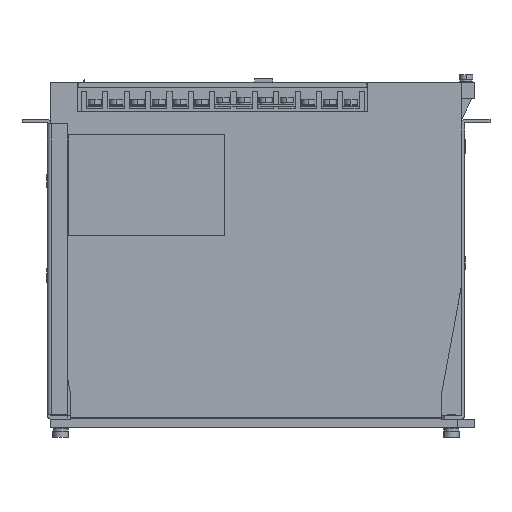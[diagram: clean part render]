
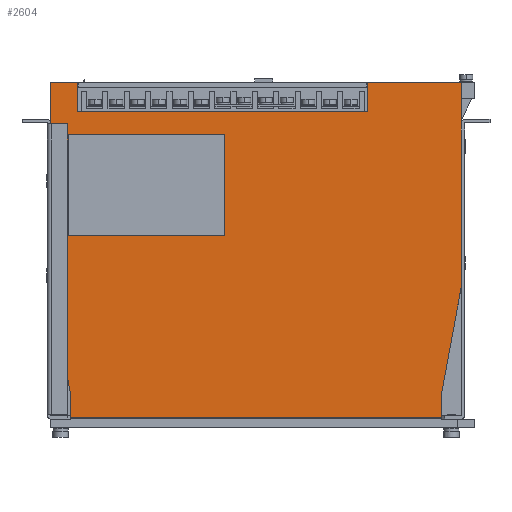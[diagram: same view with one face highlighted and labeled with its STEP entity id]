
A CAD part, left-side view. The second image highlights one B-rep face of the part: STEP entity #2604.
In plain terms, the highlighted planar face has unit normal (-1, 0, 0).
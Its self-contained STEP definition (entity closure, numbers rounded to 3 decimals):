
#2305 = ORIENTED_EDGE ( 'NONE', *, *, #9690, .F. ) ;
#2306 = EDGE_LOOP ( 'NONE', ( #2307, #2311, #2315, #2318 ) ) ;
#2307 = ORIENTED_EDGE ( 'NONE', *, *, #2308, .F. ) ;
#2308 = EDGE_CURVE ( 'NONE', #2309, #2310, #28700, .T. ) ;
#2309 = VERTEX_POINT ( 'NONE', #28696 ) ;
#2310 = VERTEX_POINT ( 'NONE', #28695 ) ;
#2311 = ORIENTED_EDGE ( 'NONE', *, *, #2313, .F. ) ;
#2313 = EDGE_CURVE ( 'NONE', #2314, #2309, #28694, .T. ) ;
#2314 = VERTEX_POINT ( 'NONE', #28764 ) ;
#2315 = ORIENTED_EDGE ( 'NONE', *, *, #2316, .F. ) ;
#2316 = EDGE_CURVE ( 'NONE', #2317, #2314, #28763, .T. ) ;
#2317 = VERTEX_POINT ( 'NONE', #28759 ) ;
#2318 = ORIENTED_EDGE ( 'NONE', *, *, #2319, .F. ) ;
#2319 = EDGE_CURVE ( 'NONE', #2310, #2317, #28758, .T. ) ;
#2321 = EDGE_CURVE ( 'NONE', #18952, #2322, #28729, .T. ) ;
#2322 = VERTEX_POINT ( 'NONE', #28725 ) ;
#2323 = ORIENTED_EDGE ( 'NONE', *, *, #2324, .F. ) ;
#2324 = EDGE_CURVE ( 'NONE', #2587, #2322, #28798, .T. ) ;
#2325 = ORIENTED_EDGE ( 'NONE', *, *, #2586, .T. ) ;
#2326 = ORIENTED_EDGE ( 'NONE', *, *, #2327, .T. ) ;
#2327 = EDGE_CURVE ( 'NONE', #2584, #2615, #28794, .T. ) ;
#2328 = ORIENTED_EDGE ( 'NONE', *, *, #2646, .F. ) ;
#2542 = EDGE_CURVE ( 'NONE', #16551, #2543, #29138, .T. ) ;
#2543 = VERTEX_POINT ( 'NONE', #29133 ) ;
#2584 = VERTEX_POINT ( 'NONE', #29192 ) ;
#2586 = EDGE_CURVE ( 'NONE', #2587, #2584, #29191, .T. ) ;
#2587 = VERTEX_POINT ( 'NONE', #29187 ) ;
#2595 = ORIENTED_EDGE ( 'NONE', *, *, #2596, .T. ) ;
#2596 = EDGE_CURVE ( 'NONE', #2644, #2543, #29238, .T. ) ;
#2597 = ORIENTED_EDGE ( 'NONE', *, *, #2542, .F. ) ;
#2598 = ORIENTED_EDGE ( 'NONE', *, *, #16549, .F. ) ;
#2604 = ADVANCED_FACE ( 'NONE', ( #29229, #29228 ), #29227, .F. ) ;
#2605 = EDGE_LOOP ( 'NONE', ( #2607, #2609, #2610, #2611, #2613, #2323, #2325, #2326, #2328, #2595, #2597, #2598, #2305 ) ) ;
#2607 = ORIENTED_EDGE ( 'NONE', *, *, #12264, .F. ) ;
#2609 = ORIENTED_EDGE ( 'NONE', *, *, #9665, .T. ) ;
#2610 = ORIENTED_EDGE ( 'NONE', *, *, #16612, .F. ) ;
#2611 = ORIENTED_EDGE ( 'NONE', *, *, #18957, .T. ) ;
#2613 = ORIENTED_EDGE ( 'NONE', *, *, #2321, .T. ) ;
#2615 = VERTEX_POINT ( 'NONE', #29222 ) ;
#2644 = VERTEX_POINT ( 'NONE', #29240 ) ;
#2646 = EDGE_CURVE ( 'NONE', #2644, #2615, #29303, .T. ) ;
#9648 = VERTEX_POINT ( 'NONE', #41196 ) ;
#9660 = VERTEX_POINT ( 'NONE', #41243 ) ;
#9665 = EDGE_CURVE ( 'NONE', #9666, #9660, #41242, .T. ) ;
#9666 = VERTEX_POINT ( 'NONE', #41238 ) ;
#9690 = EDGE_CURVE ( 'NONE', #9648, #9692, #41256, .T. ) ;
#9692 = VERTEX_POINT ( 'NONE', #41312 ) ;
#12264 = EDGE_CURVE ( 'NONE', #9666, #9648, #45516, .T. ) ;
#16549 = EDGE_CURVE ( 'NONE', #9692, #16551, #52648, .T. ) ;
#16551 = VERTEX_POINT ( 'NONE', #52644 ) ;
#16609 = VERTEX_POINT ( 'NONE', #52735 ) ;
#16612 = EDGE_CURVE ( 'NONE', #16609, #9660, #52734, .T. ) ;
#18952 = VERTEX_POINT ( 'NONE', #56578 ) ;
#18957 = EDGE_CURVE ( 'NONE', #16609, #18952, #56634, .T. ) ;
#28691 = DIRECTION ( 'NONE',  ( 0., -1., 0. ) ) ;
#28692 = VECTOR ( 'NONE', #28691, 1000. ) ;
#28693 = CARTESIAN_POINT ( 'NONE',  ( -105., -5., 116.5 ) ) ;
#28694 = LINE ( 'NONE', #28693, #28692 ) ;
#28695 = CARTESIAN_POINT ( 'NONE',  ( -105., -100., 178.5 ) ) ;
#28696 = CARTESIAN_POINT ( 'NONE',  ( -105., -100., 116.5 ) ) ;
#28697 = DIRECTION ( 'NONE',  ( 0., 0., 1. ) ) ;
#28698 = VECTOR ( 'NONE', #28697, 1000. ) ;
#28699 = CARTESIAN_POINT ( 'NONE',  ( -105., -100., 116.5 ) ) ;
#28700 = LINE ( 'NONE', #28699, #28698 ) ;
#28725 = CARTESIAN_POINT ( 'NONE',  ( -105., 3.231, 70.5 ) ) ;
#28726 = DIRECTION ( 'NONE',  ( 0., -1., 0. ) ) ;
#28727 = VECTOR ( 'NONE', #28726, 1000. ) ;
#28728 = CARTESIAN_POINT ( 'NONE',  ( -105., 6., 70.5 ) ) ;
#28729 = LINE ( 'NONE', #28728, #28727 ) ;
#28755 = DIRECTION ( 'NONE',  ( 0., 1., 0. ) ) ;
#28756 = VECTOR ( 'NONE', #28755, 1000. ) ;
#28757 = CARTESIAN_POINT ( 'NONE',  ( -105., -5., 178.5 ) ) ;
#28758 = LINE ( 'NONE', #28757, #28756 ) ;
#28759 = CARTESIAN_POINT ( 'NONE',  ( -105., -5., 178.5 ) ) ;
#28760 = DIRECTION ( 'NONE',  ( 0., 0., -1. ) ) ;
#28761 = VECTOR ( 'NONE', #28760, 1000. ) ;
#28762 = CARTESIAN_POINT ( 'NONE',  ( -105., -5., 116.5 ) ) ;
#28763 = LINE ( 'NONE', #28762, #28761 ) ;
#28764 = CARTESIAN_POINT ( 'NONE',  ( -105., -5., 116.5 ) ) ;
#28791 = DIRECTION ( 'NONE',  ( 0., -1., 0. ) ) ;
#28792 = VECTOR ( 'NONE', #28791, 1000. ) ;
#28793 = CARTESIAN_POINT ( 'NONE',  ( -105., -6., 5.7 ) ) ;
#28794 = LINE ( 'NONE', #28793, #28792 ) ;
#28795 = DIRECTION ( 'NONE',  ( 0., 0.182, 0.983 ) ) ;
#28796 = VECTOR ( 'NONE', #28795, 1000. ) ;
#28797 = CARTESIAN_POINT ( 'NONE',  ( -105., -6., 20.5 ) ) ;
#28798 = LINE ( 'NONE', #28797, #28796 ) ;
#29133 = CARTESIAN_POINT ( 'NONE',  ( -105., -244., 85.5 ) ) ;
#29135 = DIRECTION ( 'NONE',  ( 0., 0., -1. ) ) ;
#29136 = VECTOR ( 'NONE', #29135, 1000. ) ;
#29137 = CARTESIAN_POINT ( 'NONE',  ( -105., -244., 467.13 ) ) ;
#29138 = LINE ( 'NONE', #29137, #29136 ) ;
#29187 = CARTESIAN_POINT ( 'NONE',  ( -105., -6., 20.5 ) ) ;
#29188 = DIRECTION ( 'NONE',  ( 0., 0., -1. ) ) ;
#29189 = VECTOR ( 'NONE', #29188, 1000. ) ;
#29190 = CARTESIAN_POINT ( 'NONE',  ( -105., -6., 20.5 ) ) ;
#29191 = LINE ( 'NONE', #29190, #29189 ) ;
#29192 = CARTESIAN_POINT ( 'NONE',  ( -105., -6., 5.7 ) ) ;
#29222 = CARTESIAN_POINT ( 'NONE',  ( -105., -232., 5.7 ) ) ;
#29223 = DIRECTION ( 'NONE',  ( 0., 0., -1. ) ) ;
#29224 = DIRECTION ( 'NONE',  ( 1., 0., 0. ) ) ;
#29225 = CARTESIAN_POINT ( 'NONE',  ( -105., 6., 483.13 ) ) ;
#29226 = AXIS2_PLACEMENT_3D ( 'NONE', #29225, #29224, #29223 ) ;
#29227 = PLANE ( 'NONE',  #29226 ) ;
#29228 = FACE_BOUND ( 'NONE', #2306, .T. ) ;
#29229 = FACE_OUTER_BOUND ( 'NONE', #2605, .T. ) ;
#29235 = DIRECTION ( 'NONE',  ( 0., -0.182, 0.983 ) ) ;
#29236 = VECTOR ( 'NONE', #29235, 1000. ) ;
#29237 = CARTESIAN_POINT ( 'NONE',  ( -105., -232., 20.5 ) ) ;
#29238 = LINE ( 'NONE', #29237, #29236 ) ;
#29240 = CARTESIAN_POINT ( 'NONE',  ( -105., -232., 20.5 ) ) ;
#29300 = DIRECTION ( 'NONE',  ( 0., 0., -1. ) ) ;
#29301 = VECTOR ( 'NONE', #29300, 1000. ) ;
#29302 = CARTESIAN_POINT ( 'NONE',  ( -105., -232., 20.5 ) ) ;
#29303 = LINE ( 'NONE', #29302, #29301 ) ;
#41196 = CARTESIAN_POINT ( 'NONE',  ( -105., -186.7, 192.2 ) ) ;
#41238 = CARTESIAN_POINT ( 'NONE',  ( -105., -10.5, 192.2 ) ) ;
#41239 = DIRECTION ( 'NONE',  ( 0., 0., 1. ) ) ;
#41240 = VECTOR ( 'NONE', #41239, 1000. ) ;
#41241 = CARTESIAN_POINT ( 'NONE',  ( -105., -10.5, 192.2 ) ) ;
#41242 = LINE ( 'NONE', #41241, #41240 ) ;
#41243 = CARTESIAN_POINT ( 'NONE',  ( -105., -10.5, 210. ) ) ;
#41256 = LINE ( 'NONE', #41321, #41320 ) ;
#41312 = CARTESIAN_POINT ( 'NONE',  ( -105., -186.7, 210. ) ) ;
#41319 = DIRECTION ( 'NONE',  ( 0., 0., 1. ) ) ;
#41320 = VECTOR ( 'NONE', #41319, 1000. ) ;
#41321 = CARTESIAN_POINT ( 'NONE',  ( -105., -186.7, 192.2 ) ) ;
#45513 = DIRECTION ( 'NONE',  ( 0., -1., 0. ) ) ;
#45514 = VECTOR ( 'NONE', #45513, 1000. ) ;
#45515 = CARTESIAN_POINT ( 'NONE',  ( -105., -10.5, 192.2 ) ) ;
#45516 = LINE ( 'NONE', #45515, #45514 ) ;
#52644 = CARTESIAN_POINT ( 'NONE',  ( -105., -244., 210. ) ) ;
#52645 = DIRECTION ( 'NONE',  ( 0., -1., 0. ) ) ;
#52646 = VECTOR ( 'NONE', #52645, 1000. ) ;
#52647 = CARTESIAN_POINT ( 'NONE',  ( -105., 6., 210. ) ) ;
#52648 = LINE ( 'NONE', #52647, #52646 ) ;
#52731 = DIRECTION ( 'NONE',  ( 0., -1., 0. ) ) ;
#52732 = VECTOR ( 'NONE', #52731, 1000. ) ;
#52733 = CARTESIAN_POINT ( 'NONE',  ( -105., 6., 210. ) ) ;
#52734 = LINE ( 'NONE', #52733, #52732 ) ;
#52735 = CARTESIAN_POINT ( 'NONE',  ( -105., 6., 210. ) ) ;
#56578 = CARTESIAN_POINT ( 'NONE',  ( -105., 6., 70.5 ) ) ;
#56631 = DIRECTION ( 'NONE',  ( 0., 0., -1. ) ) ;
#56632 = VECTOR ( 'NONE', #56631, 1000. ) ;
#56633 = CARTESIAN_POINT ( 'NONE',  ( -105., 6., 467.13 ) ) ;
#56634 = LINE ( 'NONE', #56633, #56632 ) ;
